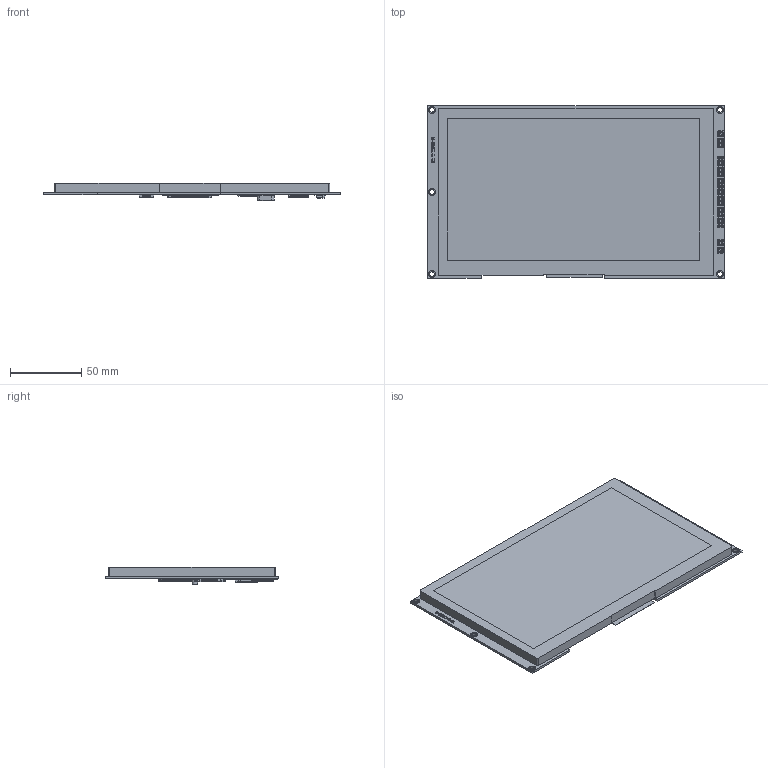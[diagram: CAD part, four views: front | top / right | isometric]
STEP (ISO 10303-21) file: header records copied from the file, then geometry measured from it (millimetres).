
FILE_DESCRIPTION(('HOOPS Exchange Step'),'2;1');
FILE_NAME('\\Server-1\e\公共文件夹\7.产品资料库\彩色-TFT\8寸\ER-TFTM080-2\ER-TFTM080-2_3D.step','2021-01-28T10:39:56+08:00',('Administrator'),('Unknown organisation'),'HOOPS Exchange 2018.2','glovius.exe','Unknown authorisation');
FILE_SCHEMA( ('AUTOMOTIVE_DESIGN { 1 0 10303 214 1 1 1 1 }') );
Length unit declared in the file: millimetre
Products named in the file (11): ER-TFTM080-2-1; 连接器_50-Pin - 副本-1; 连接器_50-Pin-1; 主控IC_new-1; 晶振-1; SD卡座-1; 连接器_6-Pin-1; FLASH_IC-1; 连接器_4脚-Pin-1; Default; ER-TFTM080-2
Assembly tree (11 placements, depth 3):
  ER-TFTM080-2
    Default
      ER-TFTM080-2-1
      连接器_50-Pin - 副本-1
      连接器_50-Pin-1
      主控IC_new-1
      晶振-1
      SD卡座-1
      连接器_6-Pin-1
      FLASH_IC-1  x2
      连接器_4脚-Pin-1
Bounding box: 207.8 x 120.9 x 12.2 mm (x, y, z)
Volume: 185326.4 mm3; surface area: 79728.5 mm2
Topology: 223 solids, 223 shells, 9659 faces, 24879 edges, 15872 vertices
Faces by surface type: bspline 9659
Entity records: 919388 total; most frequent: CARTESIAN_POINT 603894, B_SPLINE_CURVE_WITH_KNOTS 65860, DEFINITIONAL_REPRESENTATION 48490, PCURVE 48490, ORIENTED_EDGE 48490, INTERSECTION_CURVE 24245, EDGE_CURVE 24245, VERTEX_POINT 15644
